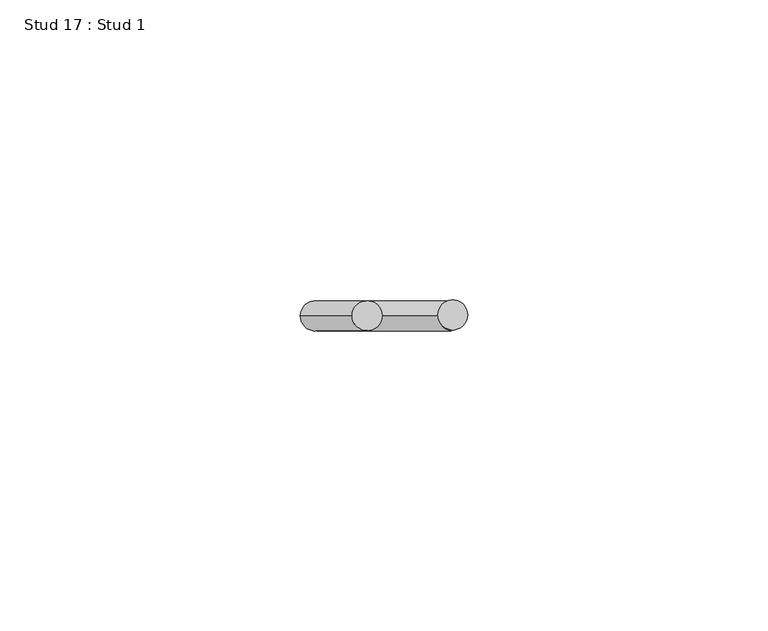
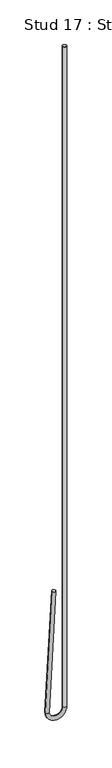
"""IFC4 building model written with IfcOpenShell, lengths in millimetres: proxy geometry, Stud 17 : Stud 1."""

from ifc_helpers import new_model, si_unit, point, frame, origin, place, context, project, spatial, circle_curve, ellipse_curve, trimmed, source, transform, mapped, element, save
from ifc_brep_helpers import plane_surface, cylinder_surface, revolved_surface, advanced_brep


def stud_17_stud_1_2ffbea10(model_context):
    return source(origin(), model_context, "Body", "AdvancedBrep", [
        advanced_brep(
        [(-12209.2532788, 9596.5191481, 3640.800192), (-12204.2601311, 9596.5191481, 3640.5385122), (-12217.8939451, 9596.5191481, 3475.9264558), (-12212.9007975, 9596.5191481, 3475.664776), (-12194.9920812, 9596.5191481, 3475.7956159), (-12189.9920812, 9596.5191481, 3475.7956159), (-12189.9920812, 9596.5191481, 4390.1956159), (-12194.9920812, 9596.5191481, 4390.1956159)],
        [
            (0, 1, circle_curve(frame((-12206.7567049, 9596.5191481, 3640.6693521), z_axis=(0.05233595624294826, 0.0, 0.9986295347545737), x_axis=(0.9986295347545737, 0.0, -0.05233595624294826)), 2.5)),
            (1, 0, circle_curve(frame((-12206.7567049, 9596.5191481, 3640.6693521), z_axis=(0.05233595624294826, 0.0, 0.9986295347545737), x_axis=(0.9986295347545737, 0.0, -0.05233595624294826)), 2.5)),
            (0, 2),
            (2, 3, circle_curve(frame((-12215.3973713, 9596.5191481, 3475.7956159), z_axis=(0.05233595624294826, 0.0, 0.9986295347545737), x_axis=(0.9986295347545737, 0.0, -0.05233595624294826)), 2.5)),
            (3, 1),
            (3, 2, circle_curve(frame((-12215.3973713, 9596.5191481, 3475.7956159), z_axis=(0.05233595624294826, 0.0, 0.9986295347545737), x_axis=(0.9986295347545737, 0.0, -0.05233595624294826)), 2.5)),
            (4, 3, circle_curve(frame((-12203.9447263, 9596.5191481, 3475.7956159), z_axis=(0.0, 1.0, 0.0), x_axis=(-1.0, 0.0, 0.0)), 8.952645)),
            (2, 5, circle_curve(frame((-12203.9447263, 9596.5191481, 3475.7956159), z_axis=(0.0, -1.0, 0.0), x_axis=(-1.0, 0.0, 0.0)), 13.952645)),
            (5, 4, circle_curve(frame((-12192.4920812, 9596.5191481, 3475.7956159), z_axis=(0.0, 0.0, -1.0), x_axis=(-1.0, 0.0, 0.0)), 2.5)),
            (4, 5, circle_curve(frame((-12192.4920812, 9596.5191481, 3475.7956159), z_axis=(0.0, 0.0, -1.0), x_axis=(-1.0, 0.0, 0.0)), 2.5)),
            (6, 7, circle_curve(frame((-12192.4920812, 9596.5191481, 4390.1956159), z_axis=(0.0, 0.0, 1.0), x_axis=(-1.0, 0.0, 0.0)), 2.5)),
            (7, 6, circle_curve(frame((-12192.4920812, 9596.5191481, 4390.1956159), z_axis=(0.0, 0.0, 1.0), x_axis=(-1.0, 0.0, 0.0)), 2.5)),
            (5, 6),
            (7, 4),
        ],
        [
            plane_surface(frame((-12206.7567049, 10190.2441481, 3640.6693521), z_axis=(0.05233595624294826, 0.0, 0.9986295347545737), x_axis=(0.0, -1.0, 0.0))),
            cylinder_surface(frame((-12206.7567049, 9596.5191481, 3640.6693521), z_axis=(0.05233595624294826, 0.0, 0.9986295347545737), x_axis=(0.9986295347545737, 0.0, -0.05233595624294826)), 2.5),
            revolved_surface(trimmed(ellipse_curve(frame((-12215.3973713, 9596.5191481, 3475.7956159), z_axis=(0.0, 0.0, 1.0), x_axis=(1.0, 0.0, 0.0)), 2.5, 2.5), [point((-12217.8973713, 9596.5191481, 3475.7956159))], [point((-12212.8973713, 9596.5191481, 3475.7956159))], True, "CARTESIAN"), (-12203.9447263, 10190.2441481, 3475.7956159), (0.0, -1.0, 0.0)),
            revolved_surface(trimmed(ellipse_curve(frame((-12215.3973713, 9596.5191481, 3475.7956159), z_axis=(0.0, 0.0, 1.0), x_axis=(1.0, 0.0, 0.0)), 2.5, 2.5), [point((-12212.8973713, 9596.5191481, 3475.7956159))], [point((-12217.8973713, 9596.5191481, 3475.7956159))], True, "CARTESIAN"), (-12203.9447263, 10190.2441481, 3475.7956159), (0.0, -1.0, 0.0)),
            plane_surface(frame((-12192.4920812, 10190.2441481, 4390.1956159), z_axis=(0.0, 0.0, 1.0), x_axis=(0.0, -1.0, 0.0))),
            cylinder_surface(frame((-12192.4920812, 9596.5191481, 3475.7956159), z_axis=(0.0, 0.0, -1.0), x_axis=(-1.0, 0.0, 0.0)), 2.5),
        ],
        [
            (0, [[1, 2]]),
            (1, [[-1, 3, 4, 5]]),
            (1, [[-2, -5, 6, -3]]),
            (2, [[7, -4, 8, 9]]),
            (3, [[-8, -6, -7, 10]]),
            (4, [[11, 12]]),
            (5, [[-9, 13, -12, 14]]),
            (5, [[-10, -14, -11, -13]]),
        ],
    ),
    ])


if __name__ == "__main__":
    model = new_model("IFC4")
    model_context = context("Model", 3, world=origin())
    ifc_project = project(units=[si_unit("LENGTHUNIT", "METRE", prefix="MILLI")], contexts=[model_context])
    site = spatial("IfcSite", under=ifc_project)
    building = spatial("IfcBuilding", under=site)
    placement = place(None, origin())
    stud_17_stud_1_shape = stud_17_stud_1_2ffbea10(model_context)
    element("IfcBuildingElementProxy", 1, Name="Stud 17 : Stud 1", ObjectType="Stud 17 : Stud 1", at=placement, inside=building, context=model_context, shape_type="MappedRepresentation", body=[
        mapped(stud_17_stud_1_shape, transform((0.0, 0.0, 0.0), x_axis=(1.0, 0.0, 0.0), y_axis=(0.0, 1.0, 0.0), z_axis=(0.0, 0.0, 1.0))),
    ])
    save(model, "model.ifc")
